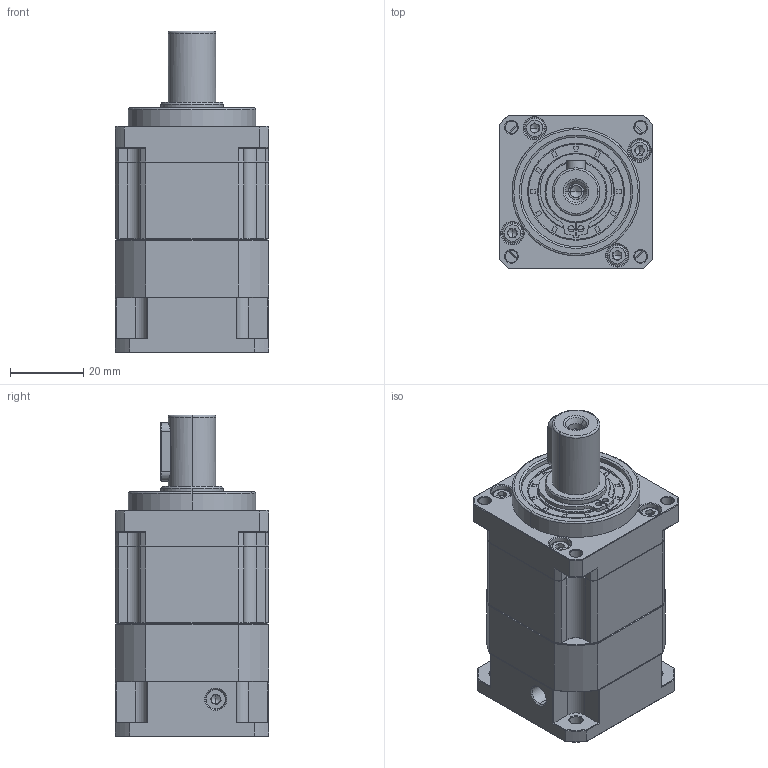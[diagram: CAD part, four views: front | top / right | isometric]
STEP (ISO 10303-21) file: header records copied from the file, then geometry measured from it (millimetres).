
FILE_DESCRIPTION (( 'STEP AP214' ), '1' );
FILE_NAME ('ZB042-D13-L1-P2-5-22-31X31-¦Õ3.5.STEP', '2023-08-15T11:58:39', ( '' ), ( '' ), 'SwSTEP 2.0', 'SolidWorks 2016', '' );
FILE_SCHEMA (( 'AUTOMOTIVE_DESIGN' ));
Length unit declared in the file: millimetre
Products named in the file (1): ZB042-D13-L1-P2-5-22-31X31-耳3.5
Bounding box: 42 x 42 x 88 mm (x, y, z)
Volume: 98420.4 mm3; surface area: 26816.4 mm2
Topology: 6 solids, 6 shells, 2183 faces, 5809 edges, 3725 vertices
Faces by surface type: plane 1134, bspline 397, cone 324, cylinder 307, torus 21
Entity records: 110732 total; most frequent: CARTESIAN_POINT 35057, ORIENTED_EDGE 11574, DIRECTION 9249, EDGE_CURVE 5787, VECTOR 3763, LINE 3763, VERTEX_POINT 3725, AXIS2_PLACEMENT_3D 2743
